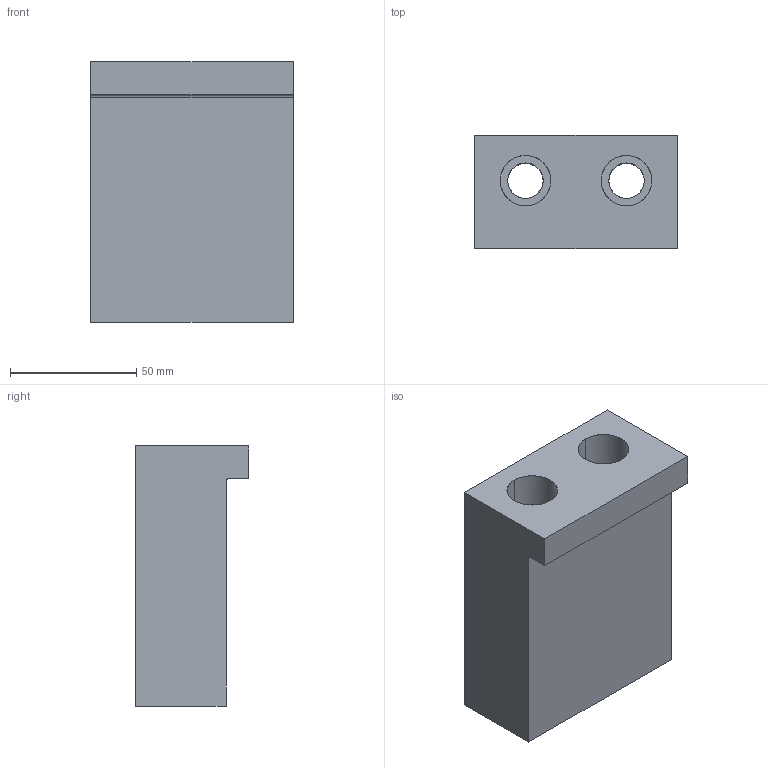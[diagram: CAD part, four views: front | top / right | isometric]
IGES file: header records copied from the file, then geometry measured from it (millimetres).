
Global section: file name: E:\UnigraphicsGraphicData\MISUMI_PRESS-PARTS\IGES\3d_bse80-90_01319_r00.igs; native system: NX V5.0; preprocessor: UGS NX IGES V5.0; author: MISUMI; date: 20110105.160141; units: millimetre
Bounding box: 80 x 45 x 103 mm (x, y, z)
Surface area: 40266.4 mm2 (no closed solid volume)
Topology: 0 solids, 0 shells, 19 faces, 142 edges, 142 vertices
Faces by surface type: bspline 19
